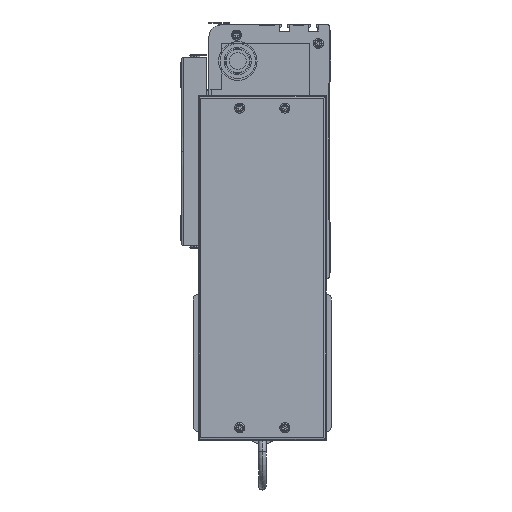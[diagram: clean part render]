
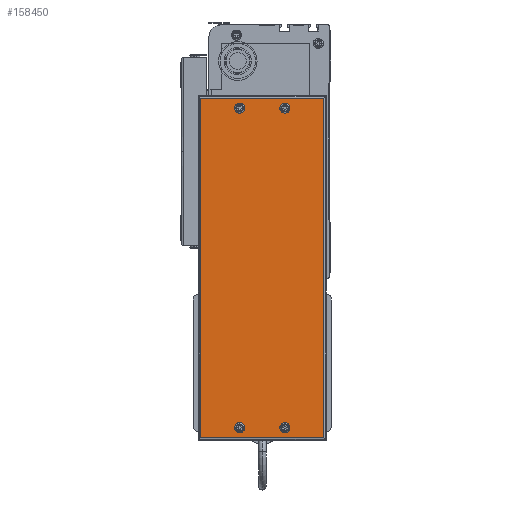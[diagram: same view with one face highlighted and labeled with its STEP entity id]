
A CAD part, left-side view. The second image highlights one B-rep face of the part: STEP entity #158450.
In plain terms, the highlighted planar face has unit normal (-1, 0, 0) as drawn and (1, 0, 0) by its records, which use the part's own axes.
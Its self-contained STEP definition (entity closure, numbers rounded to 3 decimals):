
#66578 = VECTOR ( 'NONE', #66596, 1000. ) ;
#66596 = DIRECTION ( 'NONE',  ( 0., -1., 0. ) ) ;
#66597 = CARTESIAN_POINT ( 'NONE',  ( 50., 274., -2. ) ) ;
#66601 = LINE ( 'NONE', #66597, #66578 ) ;
#75363 = DIRECTION ( 'NONE',  ( 0., 0., 1. ) ) ;
#75364 = VECTOR ( 'NONE', #75363, 1000. ) ;
#75365 = CARTESIAN_POINT ( 'NONE',  ( 50., 272., 0. ) ) ;
#75368 = LINE ( 'NONE', #75365, #75364 ) ;
#75370 = DIRECTION ( 'NONE',  ( 0., 1., 0. ) ) ;
#75371 = VECTOR ( 'NONE', #75370, 1000. ) ;
#75373 = CARTESIAN_POINT ( 'NONE',  ( 50., 274., -100. ) ) ;
#75385 = DIRECTION ( 'NONE',  ( 0., 0., -1. ) ) ;
#75386 = DIRECTION ( 'NONE',  ( 1., 0., 0. ) ) ;
#75387 = AXIS2_PLACEMENT_3D ( 'NONE', #75414, #75386, #75385 ) ;
#75395 = LINE ( 'NONE', #75373, #75371 ) ;
#75404 = CARTESIAN_POINT ( 'NONE',  ( 50., 10., -71.5 ) ) ;
#75414 = CARTESIAN_POINT ( 'NONE',  ( 50., 10., -69. ) ) ;
#75422 = CIRCLE ( 'NONE', #75387, 2.5 ) ;
#75428 = CARTESIAN_POINT ( 'NONE',  ( 50., 10., -66.5 ) ) ;
#75435 = CARTESIAN_POINT ( 'NONE',  ( 50., 2., -2. ) ) ;
#75438 = CARTESIAN_POINT ( 'NONE',  ( 50., 272., -2. ) ) ;
#75439 = FACE_BOUND ( 'NONE', #159054, .T. ) ;
#75446 = FACE_BOUND ( 'NONE', #158565, .T. ) ;
#75485 = FACE_OUTER_BOUND ( 'NONE', #158654, .T. ) ;
#75506 = CIRCLE ( 'NONE', #75511, 2.5 ) ;
#75511 = AXIS2_PLACEMENT_3D ( 'NONE', #75594, #75592, #75590 ) ;
#75513 = DIRECTION ( 'NONE',  ( 0., 0., -1. ) ) ;
#75514 = VECTOR ( 'NONE', #75513, 1000. ) ;
#75515 = CARTESIAN_POINT ( 'NONE',  ( 50., 2., 0. ) ) ;
#75523 = DIRECTION ( 'NONE',  ( 0., 0., 1. ) ) ;
#75524 = DIRECTION ( 'NONE',  ( -1., 0., 0. ) ) ;
#75525 = CARTESIAN_POINT ( 'NONE',  ( 50., 274., 0. ) ) ;
#75526 = LINE ( 'NONE', #75515, #75514 ) ;
#75529 = CARTESIAN_POINT ( 'NONE',  ( 50., 272., -100. ) ) ;
#75538 = PLANE ( 'NONE',  #75540 ) ;
#75539 = FACE_BOUND ( 'NONE', #158371, .T. ) ;
#75540 = AXIS2_PLACEMENT_3D ( 'NONE', #75525, #75524, #75523 ) ;
#75542 = FACE_BOUND ( 'NONE', #158954, .T. ) ;
#75590 = DIRECTION ( 'NONE',  ( 0., 0., -1. ) ) ;
#75592 = DIRECTION ( 'NONE',  ( 1., 0., 0. ) ) ;
#75594 = CARTESIAN_POINT ( 'NONE',  ( 50., 10., -69. ) ) ;
#75959 = CIRCLE ( 'NONE', #75991, 2.5 ) ;
#75991 = AXIS2_PLACEMENT_3D ( 'NONE', #76028, #76206, #76204 ) ;
#76028 = CARTESIAN_POINT ( 'NONE',  ( 50., 264., -33. ) ) ;
#76204 = DIRECTION ( 'NONE',  ( 0., 0., -1. ) ) ;
#76206 = DIRECTION ( 'NONE',  ( 1., 0., 0. ) ) ;
#76310 = CARTESIAN_POINT ( 'NONE',  ( 50., 2., -100. ) ) ;
#76440 = CARTESIAN_POINT ( 'NONE',  ( 50., 264., -35.5 ) ) ;
#76449 = CARTESIAN_POINT ( 'NONE',  ( 50., 10., -35.5 ) ) ;
#76565 = CIRCLE ( 'NONE', #76646, 2.5 ) ;
#76641 = CARTESIAN_POINT ( 'NONE',  ( 50., 264., -30.5 ) ) ;
#76646 = AXIS2_PLACEMENT_3D ( 'NONE', #76717, #76710, #76708 ) ;
#76708 = DIRECTION ( 'NONE',  ( 0., 0., -1. ) ) ;
#76710 = DIRECTION ( 'NONE',  ( 1., 0., 0. ) ) ;
#76717 = CARTESIAN_POINT ( 'NONE',  ( 50., 10., -33. ) ) ;
#76774 = AXIS2_PLACEMENT_3D ( 'NONE', #76792, #76877, #76875 ) ;
#76790 = CIRCLE ( 'NONE', #76774, 2.5 ) ;
#76792 = CARTESIAN_POINT ( 'NONE',  ( 50., 264., -33. ) ) ;
#76840 = AXIS2_PLACEMENT_3D ( 'NONE', #76925, #76924, #76921 ) ;
#76875 = DIRECTION ( 'NONE',  ( 0., 0., -1. ) ) ;
#76877 = DIRECTION ( 'NONE',  ( 1., 0., 0. ) ) ;
#76917 = CARTESIAN_POINT ( 'NONE',  ( 50., 10., -30.5 ) ) ;
#76921 = DIRECTION ( 'NONE',  ( 0., 0., -1. ) ) ;
#76924 = DIRECTION ( 'NONE',  ( 1., 0., 0. ) ) ;
#76925 = CARTESIAN_POINT ( 'NONE',  ( 50., 10., -33. ) ) ;
#76937 = CIRCLE ( 'NONE', #76840, 2.5 ) ;
#77178 = CARTESIAN_POINT ( 'NONE',  ( 50., 264., -66.5 ) ) ;
#77251 = DIRECTION ( 'NONE',  ( 0., 0., -1. ) ) ;
#77253 = DIRECTION ( 'NONE',  ( 1., 0., 0. ) ) ;
#77254 = CARTESIAN_POINT ( 'NONE',  ( 50., 264., -69. ) ) ;
#77256 = AXIS2_PLACEMENT_3D ( 'NONE', #77254, #77253, #77251 ) ;
#77284 = CIRCLE ( 'NONE', #77256, 2.5 ) ;
#77288 = CARTESIAN_POINT ( 'NONE',  ( 50., 264., -71.5 ) ) ;
#77360 = CIRCLE ( 'NONE', #77509, 2.5 ) ;
#77367 = CARTESIAN_POINT ( 'NONE',  ( 50., 264., -69. ) ) ;
#77506 = DIRECTION ( 'NONE',  ( 0., 0., -1. ) ) ;
#77508 = DIRECTION ( 'NONE',  ( 1., 0., 0. ) ) ;
#77509 = AXIS2_PLACEMENT_3D ( 'NONE', #77367, #77508, #77506 ) ;
#155119 = EDGE_CURVE ( 'NONE', #158439, #158441, #66601, .T. ) ;
#157727 = ORIENTED_EDGE ( 'NONE', *, *, #158483, .F. ) ;
#158347 = VERTEX_POINT ( 'NONE', #75428 ) ;
#158353 = EDGE_CURVE ( 'NONE', #158347, #158354, #75422, .T. ) ;
#158354 = VERTEX_POINT ( 'NONE', #75404 ) ;
#158356 = EDGE_CURVE ( 'NONE', #158664, #158451, #75395, .T. ) ;
#158360 = EDGE_CURVE ( 'NONE', #158451, #158439, #75368, .T. ) ;
#158366 = ORIENTED_EDGE ( 'NONE', *, *, #158360, .T. ) ;
#158371 = EDGE_LOOP ( 'NONE', ( #157727, #159118 ) ) ;
#158439 = VERTEX_POINT ( 'NONE', #75438 ) ;
#158441 = VERTEX_POINT ( 'NONE', #75435 ) ;
#158444 = ORIENTED_EDGE ( 'NONE', *, *, #158356, .T. ) ;
#158450 = ADVANCED_FACE ( 'NONE', ( #75485, #75539, #75542, #75439, #75446 ), #75538, .F. ) ;
#158451 = VERTEX_POINT ( 'NONE', #75529 ) ;
#158453 = ORIENTED_EDGE ( 'NONE', *, *, #155119, .T. ) ;
#158455 = EDGE_CURVE ( 'NONE', #158441, #158664, #75526, .T. ) ;
#158483 = EDGE_CURVE ( 'NONE', #158354, #158347, #75506, .T. ) ;
#158565 = EDGE_LOOP ( 'NONE', ( #158604, #158580 ) ) ;
#158571 = EDGE_CURVE ( 'NONE', #158745, #158747, #75959, .T. ) ;
#158574 = ORIENTED_EDGE ( 'NONE', *, *, #159109, .F. ) ;
#158578 = ORIENTED_EDGE ( 'NONE', *, *, #159092, .F. ) ;
#158580 = ORIENTED_EDGE ( 'NONE', *, *, #158853, .F. ) ;
#158604 = ORIENTED_EDGE ( 'NONE', *, *, #158571, .F. ) ;
#158654 = EDGE_LOOP ( 'NONE', ( #158453, #158666, #158444, #158366 ) ) ;
#158664 = VERTEX_POINT ( 'NONE', #76310 ) ;
#158666 = ORIENTED_EDGE ( 'NONE', *, *, #158455, .T. ) ;
#158738 = VERTEX_POINT ( 'NONE', #76449 ) ;
#158745 = VERTEX_POINT ( 'NONE', #76440 ) ;
#158747 = VERTEX_POINT ( 'NONE', #76641 ) ;
#158776 = EDGE_CURVE ( 'NONE', #158738, #158932, #76565, .T. ) ;
#158837 = ORIENTED_EDGE ( 'NONE', *, *, #158776, .F. ) ;
#158853 = EDGE_CURVE ( 'NONE', #158747, #158745, #76790, .T. ) ;
#158925 = EDGE_CURVE ( 'NONE', #158932, #158738, #76937, .T. ) ;
#158932 = VERTEX_POINT ( 'NONE', #76917 ) ;
#158954 = EDGE_LOOP ( 'NONE', ( #158837, #158986 ) ) ;
#158986 = ORIENTED_EDGE ( 'NONE', *, *, #158925, .F. ) ;
#159054 = EDGE_LOOP ( 'NONE', ( #158574, #158578 ) ) ;
#159091 = VERTEX_POINT ( 'NONE', #77288 ) ;
#159092 = EDGE_CURVE ( 'NONE', #159095, #159091, #77284, .T. ) ;
#159095 = VERTEX_POINT ( 'NONE', #77178 ) ;
#159109 = EDGE_CURVE ( 'NONE', #159091, #159095, #77360, .T. ) ;
#159118 = ORIENTED_EDGE ( 'NONE', *, *, #158353, .F. ) ;
